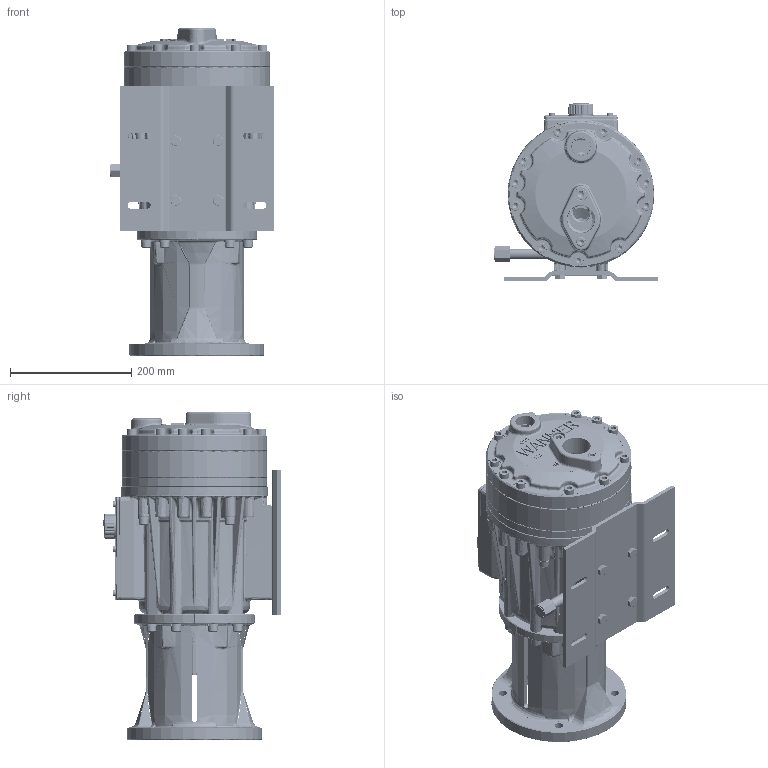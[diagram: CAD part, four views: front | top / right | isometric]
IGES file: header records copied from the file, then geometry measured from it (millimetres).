
Start section: SolidWorks IGES file using analytic representation for surfaces
Global section: file name: Q:\ENG\!!Gary\Outline-Dwgs\Latest-Pump-etc-OD\H25-M-1200.IGS; native system: SolidWorks 2007; preprocessor: SolidWorks 2007; author: garyi; date: 081104.124731; units: inch
Bounding box: 269.87 x 293.87 x 539.34 mm (x, y, z)
Surface area: 1769012.3 mm2 (no closed solid volume)
Topology: 0 solids, 0 shells, 11380 faces, 134373 edges, 134298 vertices
Faces by surface type: revolution 6714, bspline 4666
